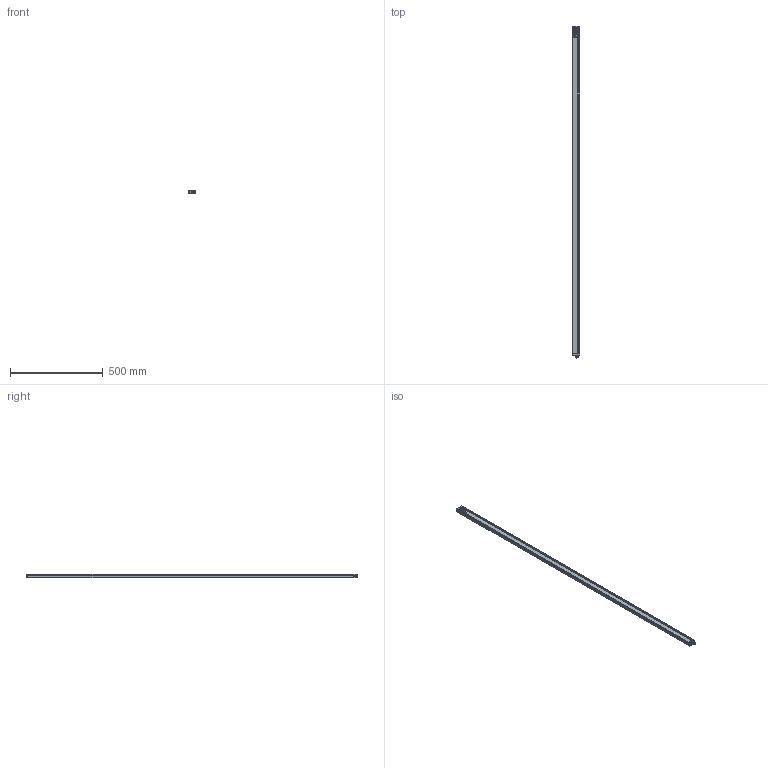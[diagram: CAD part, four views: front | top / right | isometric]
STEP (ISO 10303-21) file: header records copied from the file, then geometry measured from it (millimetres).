
FILE_DESCRIPTION(/* description */ (''),/* implementation_level */ '2;1');
FILE_NAME(/* name */ 'C:\Users\andre\SynologyDrive\Optoscan\Libreria Componenti\00 - Barriere\Barriera sorgente\Argo_1760_RX.stp',/* time_stamp */ '2021-04-22T12:17:51+02:00',/* author */ ('andre'),/* organization */ (''),/* preprocessor_version */ 'ST-DEVELOPER v18',/* originating_system */ 'Autodesk Inventor 2020',/* authorisation */ '');
FILE_SCHEMA (('AUTOMOTIVE_DESIGN { 1 0 10303 214 3 1 1 }'));
Length unit declared in the file: millimetre
Products named in the file (1): Argo_1760_RX
Bounding box: 40.5 x 1793.3 x 20.75 mm (x, y, z)
Volume: 353832.5 mm3; surface area: 468647.2 mm2
Topology: 1 solids, 1 shells, 692 faces, 1898 edges, 1217 vertices
Faces by surface type: plane 319, cylinder 195, bspline 94, torus 70, cone 8, sphere 6
Full cylindrical faces by diameter (mm): 1 x4, 2.459 x4, 2.5 x4, 3 x4, 3.5 x4, 5.5 x4, 8 x1, 10.5 x2, 11.75 x9, 15.7 x1, 17.5 x1
Entity records: 28165 total; most frequent: CARTESIAN_POINT 10195, ORIENTED_EDGE 3778, DIRECTION 3387, EDGE_CURVE 1889, VERTEX_POINT 1217, AXIS2_PLACEMENT_3D 1183, LINE 1021, VECTOR 1021
